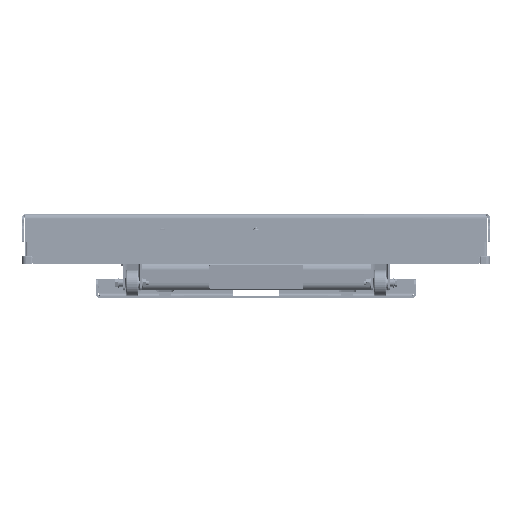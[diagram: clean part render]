
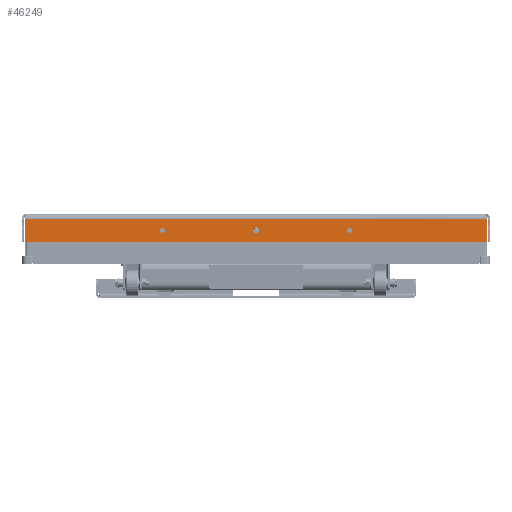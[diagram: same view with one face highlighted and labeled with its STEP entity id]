
A CAD part, left-side view. The second image highlights one B-rep face of the part: STEP entity #46249.
In plain terms, the highlighted planar face has unit normal (-1, 0, 0).
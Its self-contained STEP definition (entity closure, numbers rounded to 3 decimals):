
#3028=FACE_BOUND('',#8727,.T.);
#3029=FACE_BOUND('',#8728,.T.);
#3030=FACE_BOUND('',#8729,.T.);
#3866=CIRCLE('',#49437,6.25);
#3870=CIRCLE('',#49443,5.25);
#3874=CIRCLE('',#49449,5.25);
#3923=CIRCLE('',#49532,1.);
#3925=CIRCLE('',#49536,1.);
#3926=CIRCLE('',#49537,1.);
#3927=CIRCLE('',#49538,1.);
#5898=FACE_OUTER_BOUND('',#8726,.T.);
#8726=EDGE_LOOP('',(#34595,#34596,#34597,#34598,#34599,#34600,#34601,#34602,
#34603,#34604));
#8727=EDGE_LOOP('',(#34605));
#8728=EDGE_LOOP('',(#34606));
#8729=EDGE_LOOP('',(#34607));
#12126=LINE('',#70370,#16345);
#12129=LINE('',#70376,#16348);
#12130=LINE('',#70380,#16349);
#12131=LINE('',#70382,#16350);
#12132=LINE('',#70384,#16351);
#12133=LINE('',#70388,#16352);
#16345=VECTOR('',#56614,987.);
#16348=VECTOR('',#56619,34.382);
#16349=VECTOR('',#56622,14.585);
#16350=VECTOR('',#56623,987.333);
#16351=VECTOR('',#56624,14.585);
#16352=VECTOR('',#56627,34.382);
#20542=VERTEX_POINT('',#70136);
#20546=VERTEX_POINT('',#70146);
#20550=VERTEX_POINT('',#70156);
#20619=VERTEX_POINT('',#70360);
#20620=VERTEX_POINT('',#70361);
#20623=VERTEX_POINT('',#70369);
#20625=VERTEX_POINT('',#70375);
#20626=VERTEX_POINT('',#70377);
#20627=VERTEX_POINT('',#70379);
#20628=VERTEX_POINT('',#70381);
#20629=VERTEX_POINT('',#70383);
#20630=VERTEX_POINT('',#70385);
#20631=VERTEX_POINT('',#70387);
#25714=EDGE_CURVE('',#20542,#20542,#3866,.T.);
#25718=EDGE_CURVE('',#20546,#20546,#3870,.T.);
#25722=EDGE_CURVE('',#20550,#20550,#3874,.T.);
#25823=EDGE_CURVE('',#20619,#20620,#3923,.T.);
#25827=EDGE_CURVE('',#20620,#20623,#12126,.T.);
#25830=EDGE_CURVE('',#20625,#20619,#12129,.T.);
#25831=EDGE_CURVE('',#20626,#20625,#3925,.T.);
#25832=EDGE_CURVE('',#20626,#20627,#12130,.T.);
#25833=EDGE_CURVE('',#20627,#20628,#12131,.T.);
#25834=EDGE_CURVE('',#20628,#20629,#12132,.T.);
#25835=EDGE_CURVE('',#20630,#20629,#3926,.T.);
#25836=EDGE_CURVE('',#20631,#20630,#12133,.T.);
#25837=EDGE_CURVE('',#20623,#20631,#3927,.T.);
#34595=ORIENTED_EDGE('',*,*,#25823,.F.);
#34596=ORIENTED_EDGE('',*,*,#25830,.F.);
#34597=ORIENTED_EDGE('',*,*,#25831,.F.);
#34598=ORIENTED_EDGE('',*,*,#25832,.T.);
#34599=ORIENTED_EDGE('',*,*,#25833,.T.);
#34600=ORIENTED_EDGE('',*,*,#25834,.T.);
#34601=ORIENTED_EDGE('',*,*,#25835,.F.);
#34602=ORIENTED_EDGE('',*,*,#25836,.F.);
#34603=ORIENTED_EDGE('',*,*,#25837,.F.);
#34604=ORIENTED_EDGE('',*,*,#25827,.F.);
#34605=ORIENTED_EDGE('',*,*,#25714,.T.);
#34606=ORIENTED_EDGE('',*,*,#25718,.T.);
#34607=ORIENTED_EDGE('',*,*,#25722,.T.);
#44572=PLANE('',#49535);
#46249=ADVANCED_FACE('',(#5898,#3028,#3029,#3030),#44572,.F.);
#49437=AXIS2_PLACEMENT_3D('',#70137,#56364,#56365);
#49443=AXIS2_PLACEMENT_3D('',#70147,#56376,#56377);
#49449=AXIS2_PLACEMENT_3D('',#70157,#56388,#56389);
#49532=AXIS2_PLACEMENT_3D('',#70362,#56606,#56607);
#49535=AXIS2_PLACEMENT_3D('',#70374,#56617,#56618);
#49536=AXIS2_PLACEMENT_3D('',#70378,#56620,#56621);
#49537=AXIS2_PLACEMENT_3D('',#70386,#56625,#56626);
#49538=AXIS2_PLACEMENT_3D('',#70389,#56628,#56629);
#56364=DIRECTION('center_axis',(1.,0.,0.));
#56365=DIRECTION('ref_axis',(0.,0.,1.));
#56376=DIRECTION('center_axis',(1.,0.,0.));
#56377=DIRECTION('ref_axis',(0.,0.,1.));
#56388=DIRECTION('center_axis',(1.,0.,0.));
#56389=DIRECTION('ref_axis',(0.,0.,1.));
#56606=DIRECTION('center_axis',(1.,0.,0.));
#56607=DIRECTION('ref_axis',(0.,0.707,0.707));
#56614=DIRECTION('',(0.,-1.,0.));
#56617=DIRECTION('center_axis',(1.,0.,0.));
#56618=DIRECTION('ref_axis',(0.,0.,-1.));
#56619=DIRECTION('',(0.,0.,1.));
#56620=DIRECTION('center_axis',(1.,0.,0.));
#56621=DIRECTION('ref_axis',(0.,1.,-0.029));
#56622=DIRECTION('',(0.,-0.057,-0.998));
#56623=DIRECTION('',(0.,-1.,0.));
#56624=DIRECTION('',(0.,-0.057,0.998));
#56625=DIRECTION('center_axis',(1.,0.,0.));
#56626=DIRECTION('ref_axis',(0.,-1.,-0.029));
#56627=DIRECTION('',(0.,0.,-1.));
#56628=DIRECTION('center_axis',(1.,0.,0.));
#56629=DIRECTION('ref_axis',(0.,-0.707,0.707));
#70136=CARTESIAN_POINT('',(-650.,0.,41.25));
#70137=CARTESIAN_POINT('Origin',(-650.,0.,35.));
#70146=CARTESIAN_POINT('',(-650.,200.,40.25));
#70147=CARTESIAN_POINT('Origin',(-650.,200.,35.));
#70156=CARTESIAN_POINT('',(-650.,-200.,40.25));
#70157=CARTESIAN_POINT('Origin',(-650.,-200.,35.));
#70360=CARTESIAN_POINT('',(-650.,494.5,59.));
#70361=CARTESIAN_POINT('',(-650.,493.5,60.));
#70362=CARTESIAN_POINT('Origin',(-650.,493.5,59.));
#70369=CARTESIAN_POINT('',(-650.,-493.5,60.));
#70370=CARTESIAN_POINT('',(-650.,494.5,60.));
#70374=CARTESIAN_POINT('Origin',(-650.,0.,30.002));
#70375=CARTESIAN_POINT('',(-650.,494.5,24.618));
#70376=CARTESIAN_POINT('',(-650.,494.5,10.));
#70377=CARTESIAN_POINT('',(-650.,494.498,24.561));
#70378=CARTESIAN_POINT('Origin',(-650.,493.5,24.618));
#70379=CARTESIAN_POINT('',(-650.,493.666,10.));
#70380=CARTESIAN_POINT('',(-650.,493.849,13.205));
#70381=CARTESIAN_POINT('',(-650.,-493.666,10.));
#70382=CARTESIAN_POINT('',(-650.,0.,10.));
#70383=CARTESIAN_POINT('',(-650.,-494.498,24.561));
#70384=CARTESIAN_POINT('',(-650.,-493.849,13.205));
#70385=CARTESIAN_POINT('',(-650.,-494.5,24.618));
#70386=CARTESIAN_POINT('Origin',(-650.,-493.5,24.618));
#70387=CARTESIAN_POINT('',(-650.,-494.5,59.));
#70388=CARTESIAN_POINT('',(-650.,-494.5,10.));
#70389=CARTESIAN_POINT('Origin',(-650.,-493.5,59.));
